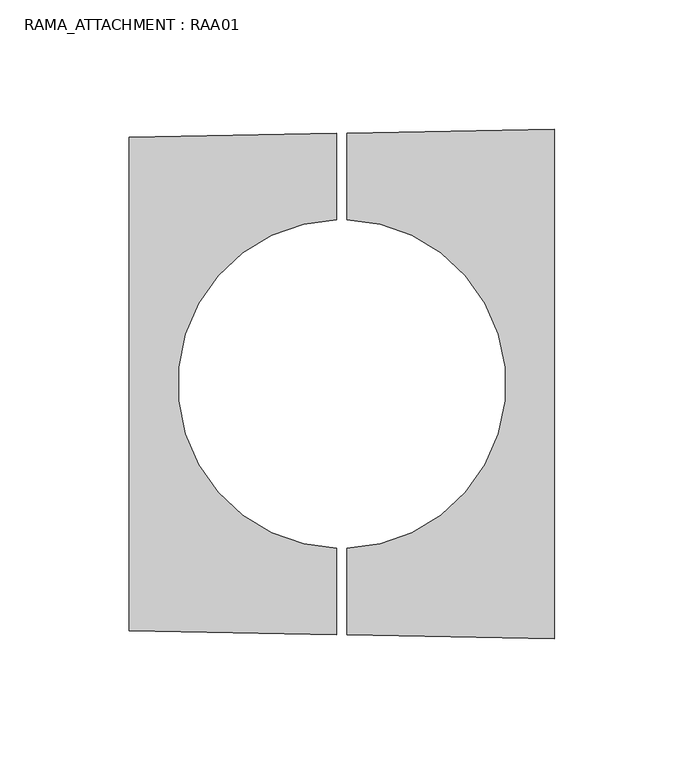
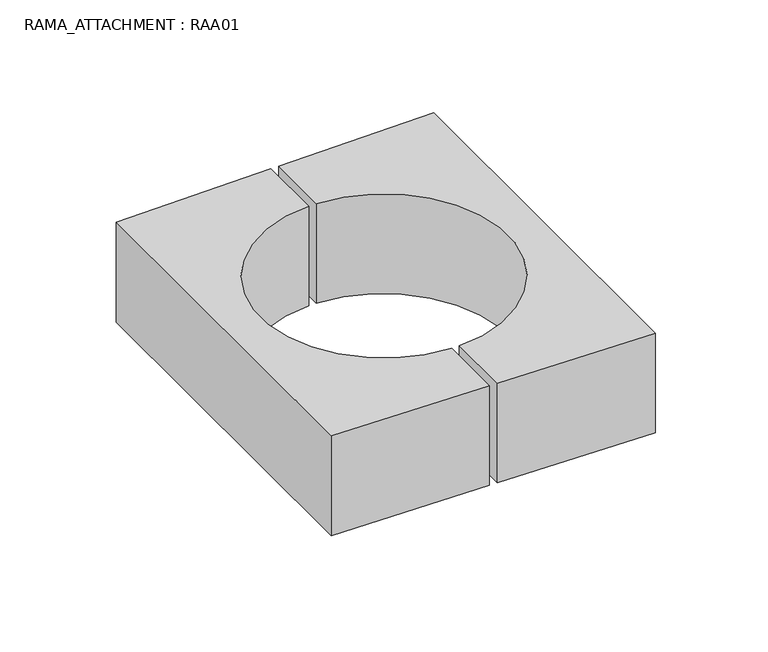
"""IFC4 building model written with IfcOpenShell, lengths in millimetres: light fixture geometry, RAMA_ATTACHMENT : RAA01."""

from ifc_helpers import new_model, si_unit, point, frame, origin, origin_2d, place, context, project, spatial, polyline, circle_curve, trimmed, segment, composite_curve, outline, extrude, source, transform, mapped, element, save


def rama_attachment_raa01_cc003ae8(model_context):
    return source(origin(), model_context, "Body", "SweptSolid", [
        extrude(outline(composite_curve([segment(polyline([(-82.1339264, -95.3952439), (-82.1339264, 95.3952439), (-2.0, 96.8186151), (-2.0, 63.4684961)]), True, "CONTINUOUS"), segment(trimmed(circle_curve(origin_2d(), 63.5), [point((-2.0, 63.4684961))], [point((-2.0, -63.4684961))], True, "CARTESIAN"), True, "CONTINUOUS"), segment(polyline([(-2.0, -63.4684961), (-2.0, -96.8186151), (-82.1339264, -95.3952439)]), True, "CONTINUOUS")], self_intersect=False)), frame((0.0, 0.0, -27.0), z_axis=(0.0, 0.0, 1.0), x_axis=(1.0, 0.0, 0.0)), (0.0, 0.0, 1.0), 54.0),
        extrude(outline(composite_curve([segment(polyline([(2.0, 96.8896647), (82.1339264, 98.3130358), (82.1339264, -98.3130358), (2.0, -96.8896647), (2.0, -63.4684961)]), True, "CONTINUOUS"), segment(trimmed(circle_curve(origin_2d(), 63.5), [point((2.0, -63.4684961))], [point((2.0, 63.4684961))], True, "CARTESIAN"), True, "CONTINUOUS"), segment(polyline([(2.0, 63.4684961), (2.0, 96.8896647)]), True, "CONTINUOUS")], self_intersect=False)), frame((0.0, 0.0, -27.0), z_axis=(0.0, 0.0, 1.0), x_axis=(1.0, 0.0, 0.0)), (0.0, 0.0, 1.0), 54.0),
    ])


if __name__ == "__main__":
    model = new_model("IFC4")
    model_context = context("Model", 3, world=origin())
    ifc_project = project(units=[si_unit("LENGTHUNIT", "METRE", prefix="MILLI")], contexts=[model_context])
    site = spatial("IfcSite", under=ifc_project)
    building = spatial("IfcBuilding", under=site)
    placement = place(None, origin())
    rama_attachment_raa01_shape = rama_attachment_raa01_cc003ae8(model_context)
    element("IfcLightFixture", 1, ObjectType="RAMA_ATTACHMENT : RAA01", at=placement, inside=building, context=model_context, shape_type="MappedRepresentation", body=[
        mapped(rama_attachment_raa01_shape, transform((0.0, 0.0, 0.0), x_axis=(1.0, 0.0, 0.0), y_axis=(0.0, 1.0, 0.0), z_axis=(0.0, 0.0, 1.0))),
    ])
    save(model, "model.ifc")
